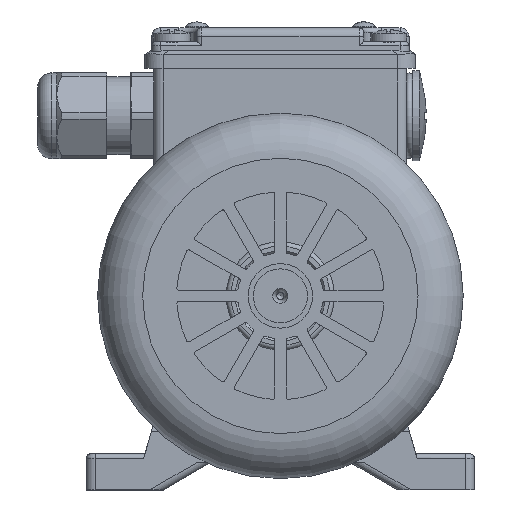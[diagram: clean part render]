
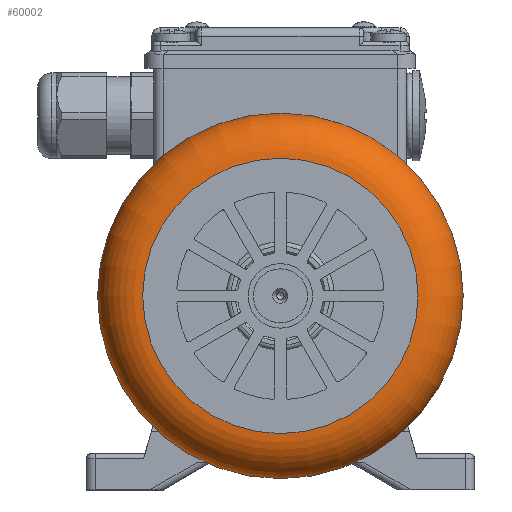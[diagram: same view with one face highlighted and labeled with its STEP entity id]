
A CAD part, left-side view. The second image highlights one B-rep face of the part: STEP entity #60002.
In plain terms, the highlighted toroidal (fillet/blend) face has major radius 30.5 mm and minor radius 10 mm.
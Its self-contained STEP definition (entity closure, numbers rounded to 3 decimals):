
#15188=FACE_BOUND('',#20940,.T.);
#17257=FACE_OUTER_BOUND('',#20939,.T.);
#20939=EDGE_LOOP('',(#49618));
#20940=EDGE_LOOP('',(#49619));
#23952=CIRCLE('',#64839,40.5);
#23953=CIRCLE('',#64840,30.5);
#28344=VERTEX_POINT('',#105815);
#28345=VERTEX_POINT('',#105817);
#35935=EDGE_CURVE('',#28344,#28344,#23952,.T.);
#35936=EDGE_CURVE('',#28345,#28345,#23953,.T.);
#49618=ORIENTED_EDGE('',*,*,#35935,.T.);
#49619=ORIENTED_EDGE('',*,*,#35936,.T.);
#58130=TOROIDAL_SURFACE('',#64838,30.5,10.);
#60002=ADVANCED_FACE('',(#17257,#15188),#58130,.T.);
#64838=AXIS2_PLACEMENT_3D('',#105814,#75422,#75423);
#64839=AXIS2_PLACEMENT_3D('',#105816,#75424,#75425);
#64840=AXIS2_PLACEMENT_3D('',#105818,#75426,#75427);
#75422=DIRECTION('center_axis',(0.,0.,-1.));
#75423=DIRECTION('ref_axis',(-1.,0.,0.));
#75424=DIRECTION('center_axis',(0.,0.,-1.));
#75425=DIRECTION('ref_axis',(-1.,0.,0.));
#75426=DIRECTION('center_axis',(0.,0.,1.));
#75427=DIRECTION('ref_axis',(-1.,0.,0.));
#105814=CARTESIAN_POINT('Origin',(0.,0.,10.));
#105815=CARTESIAN_POINT('',(40.5,0.,10.));
#105816=CARTESIAN_POINT('Origin',(0.,0.,10.));
#105817=CARTESIAN_POINT('',(30.5,0.,0.));
#105818=CARTESIAN_POINT('Origin',(0.,0.,0.));
